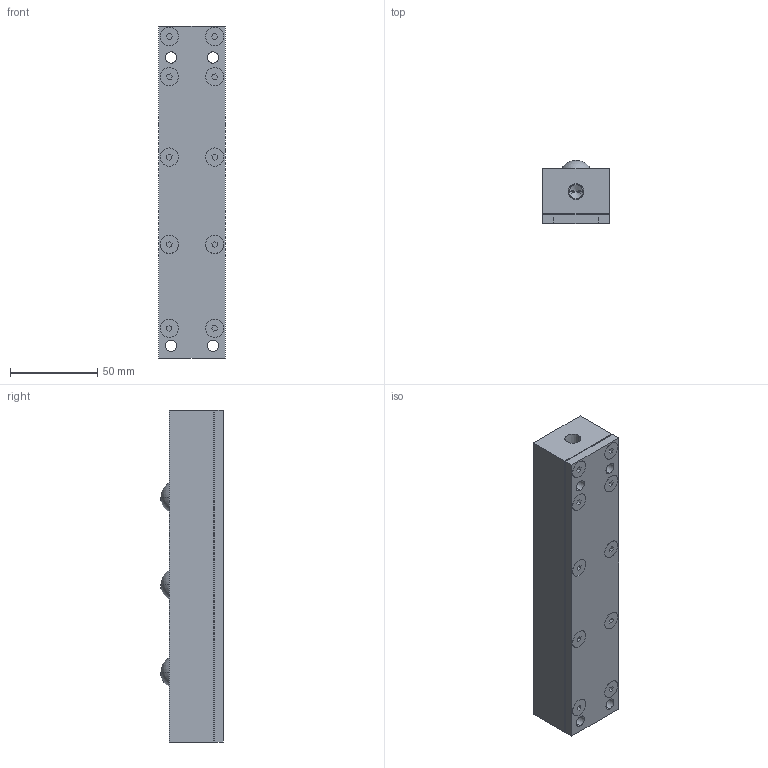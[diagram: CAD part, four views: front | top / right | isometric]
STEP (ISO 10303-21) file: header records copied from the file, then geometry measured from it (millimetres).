
FILE_DESCRIPTION (( 'STEP AP203' ), '1' );
FILE_NAME ('PVL30SL-3-P50.STEP', '2016-01-06T05:28:51', ( '' ), ( '' ), 'SwSTEP 2.0', 'SolidWorks 2013', '' );
FILE_SCHEMA (( 'CONFIG_CONTROL_DESIGN' ));
Length unit declared in the file: millimetre
Products named in the file (1): PVL30SL-3-P50
Bounding box: 38 x 36 x 190 mm (x, y, z)
Volume: 218491.5 mm3; surface area: 66017.8 mm2
Topology: 9 solids, 9 shells, 251 faces, 592 edges, 384 vertices
Faces by surface type: plane 119, cylinder 86, cone 40, sphere 6
Entity records: 7333 total; most frequent: DIRECTION 1318, CARTESIAN_POINT 1214, ORIENTED_EDGE 1156, EDGE_CURVE 578, AXIS2_PLACEMENT_3D 488, VERTEX_POINT 384, VECTOR 342, LINE 342
